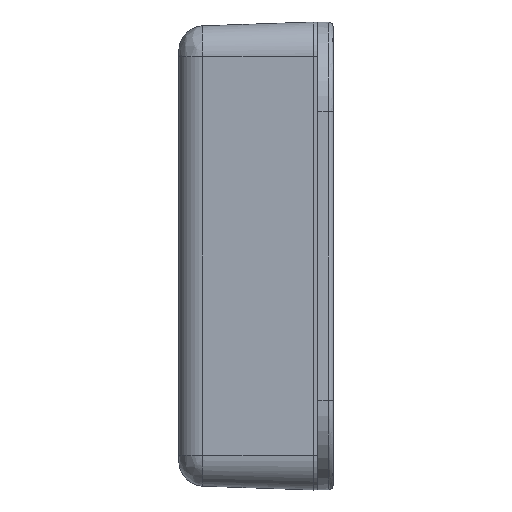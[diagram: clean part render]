
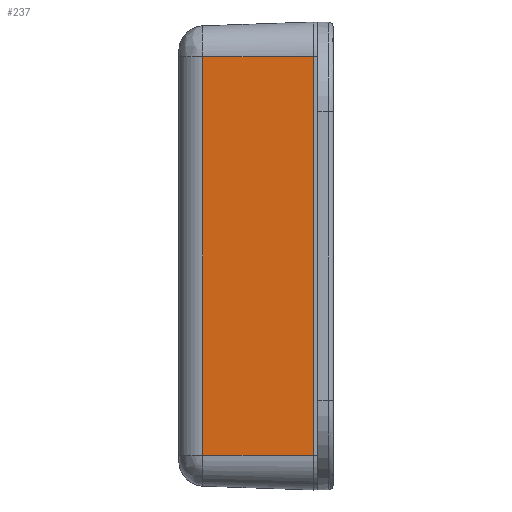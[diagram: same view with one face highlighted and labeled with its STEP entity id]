
A CAD part, left-side view. The second image highlights one B-rep face of the part: STEP entity #237.
In plain terms, the highlighted planar face has unit normal (-0.999, 0.035, 0) as drawn and (-0.999, 0, 0.035) by its records, which use the part's own axes.
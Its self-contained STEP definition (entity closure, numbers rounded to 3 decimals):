
#237 = ADVANCED_FACE ( 'NONE', ( #7456 ), #3172, .T. ) ;
#686 = CARTESIAN_POINT ( 'NONE',  ( -60.25, -40.004, 0. ) ) ;
#908 = VECTOR ( 'NONE', #2474, 1000. ) ;
#1037 = DIRECTION ( 'NONE',  ( -0.035, 0., -0.999 ) ) ;
#1459 = EDGE_LOOP ( 'NONE', ( #5946, #3445, #3593, #5994 ) ) ;
#1944 = DIRECTION ( 'NONE',  ( -0.999, 0., 0.035 ) ) ;
#2474 = DIRECTION ( 'NONE',  ( -0.035, 0., -0.999 ) ) ;
#2567 = VECTOR ( 'NONE', #1037, 1000. ) ;
#3172 = PLANE ( 'NONE',  #4171 ) ;
#3411 = EDGE_CURVE ( 'NONE', #6984, #5902, #7461, .T. ) ;
#3438 = LINE ( 'NONE', #4462, #2567 ) ;
#3445 = ORIENTED_EDGE ( 'NONE', *, *, #3411, .T. ) ;
#3541 = VERTEX_POINT ( 'NONE', #5870 ) ;
#3593 = ORIENTED_EDGE ( 'NONE', *, *, #7579, .T. ) ;
#4171 = AXIS2_PLACEMENT_3D ( 'NONE', #686, #1944, #7599 ) ;
#4282 = DIRECTION ( 'NONE',  ( 0., 1., 0. ) ) ;
#4462 = CARTESIAN_POINT ( 'NONE',  ( -60.25, -40.004, 0. ) ) ;
#4474 = LINE ( 'NONE', #7491, #908 ) ;
#4674 = CARTESIAN_POINT ( 'NONE',  ( -59.476, 40.004, 22.174 ) ) ;
#4714 = EDGE_CURVE ( 'NONE', #6984, #3541, #3438, .T. ) ;
#5112 = VECTOR ( 'NONE', #6554, 1000. ) ;
#5304 = CARTESIAN_POINT ( 'NONE',  ( -59.476, 40.004, 22.174 ) ) ;
#5357 = CARTESIAN_POINT ( 'NONE',  ( -60.25, 40.004, 0. ) ) ;
#5670 = VECTOR ( 'NONE', #4282, 1000. ) ;
#5826 = CARTESIAN_POINT ( 'NONE',  ( -59.476, -40.004, 22.174 ) ) ;
#5856 = LINE ( 'NONE', #6725, #5670 ) ;
#5870 = CARTESIAN_POINT ( 'NONE',  ( -60.25, -40.004, 0. ) ) ;
#5902 = VERTEX_POINT ( 'NONE', #5304 ) ;
#5946 = ORIENTED_EDGE ( 'NONE', *, *, #4714, .F. ) ;
#5994 = ORIENTED_EDGE ( 'NONE', *, *, #6090, .F. ) ;
#6005 = VERTEX_POINT ( 'NONE', #5357 ) ;
#6090 = EDGE_CURVE ( 'NONE', #3541, #6005, #5856, .T. ) ;
#6554 = DIRECTION ( 'NONE',  ( 0., 1., 0. ) ) ;
#6725 = CARTESIAN_POINT ( 'NONE',  ( -60.25, -40.004, 0. ) ) ;
#6984 = VERTEX_POINT ( 'NONE', #5826 ) ;
#7456 = FACE_OUTER_BOUND ( 'NONE', #1459, .T. ) ;
#7461 = LINE ( 'NONE', #4674, #5112 ) ;
#7491 = CARTESIAN_POINT ( 'NONE',  ( -60.25, 40.004, 0. ) ) ;
#7579 = EDGE_CURVE ( 'NONE', #5902, #6005, #4474, .T. ) ;
#7599 = DIRECTION ( 'NONE',  ( 0.035, 0., 0.999 ) ) ;
